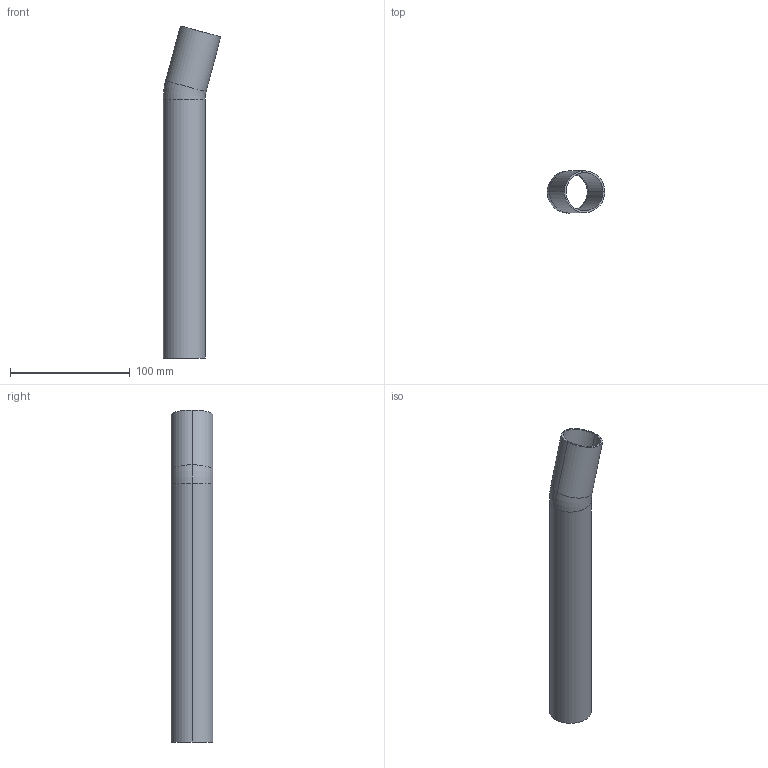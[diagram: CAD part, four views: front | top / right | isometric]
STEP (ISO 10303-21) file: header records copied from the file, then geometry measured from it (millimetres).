
FILE_DESCRIPTION(('OneSpaceDesigner STEP Export'),'2;1');
FILE_NAME('R2722 35x35.stp','2010-06-10T12:47:21',(''),(''),'OneSpace Designer STEP processor for AP214 (Solid Model)','OneSpace Modeling 15.00A 14-Mar-2007 (C) CoCreate Software GmbH','');
FILE_SCHEMA(('AUTOMOTIVE_DESIGN { 1 0 10303 214 1 1 1 1 }'));
Length unit declared in the file: millimetre
Products named in the file (2): R2722_35x35
Assembly tree (1 placements, depth 2):
  R2722_35x35
    R2722_35x35
Bounding box: 48.12 x 35 x 277.72 mm (x, y, z)
Volume: 43402.9 mm3; surface area: 58186.3 mm2
Topology: 1 solids, 1 shells, 14 faces, 29 edges, 17 vertices
Faces by surface type: cylinder 8, torus 4, plane 2
Entity records: 362 total; most frequent: ORIENTED_EDGE 58, DIRECTION 56, CARTESIAN_POINT 49, EDGE_CURVE 29, AXIS2_PLACEMENT_3D 24, VERTEX_POINT 17, EDGE_LOOP 16, CIRCLE 14
